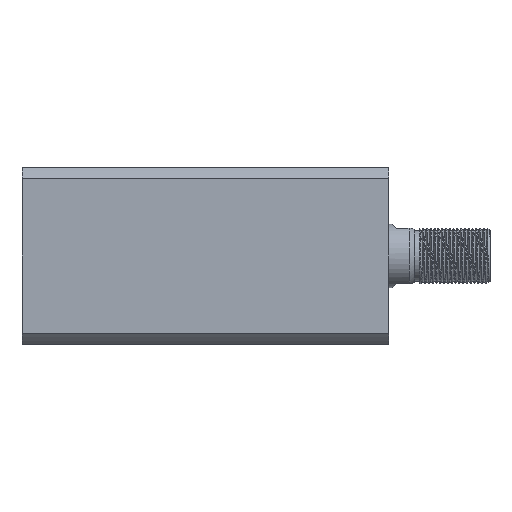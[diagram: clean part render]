
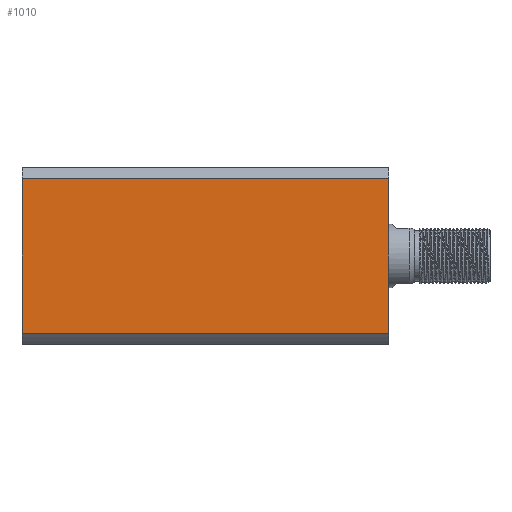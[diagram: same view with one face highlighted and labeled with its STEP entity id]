
A CAD part, left-side view. The second image highlights one B-rep face of the part: STEP entity #1010.
In plain terms, the highlighted planar face has unit normal (-1, 0, 0).
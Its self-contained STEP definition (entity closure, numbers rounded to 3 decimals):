
#319 = CARTESIAN_POINT ( 'NONE',  ( -35., -30.615, 300. ) ) ;
#566 = ORIENTED_EDGE ( 'NONE', *, *, #8358, .F. ) ;
#658 = VECTOR ( 'NONE', #2117, 1000. ) ;
#1010 = ADVANCED_FACE ( 'NONE', ( #8314 ), #3486, .F. ) ;
#2117 = DIRECTION ( 'NONE',  ( 0., -1., 0. ) ) ;
#2151 = CARTESIAN_POINT ( 'NONE',  ( -35., 35., 145. ) ) ;
#2735 = ORIENTED_EDGE ( 'NONE', *, *, #13104, .T. ) ;
#3486 = PLANE ( 'NONE',  #8802 ) ;
#3770 = VERTEX_POINT ( 'NONE', #4317 ) ;
#3816 = DIRECTION ( 'NONE',  ( 1., 0., 0. ) ) ;
#3915 = LINE ( 'NONE', #10594, #12043 ) ;
#4086 = VERTEX_POINT ( 'NONE', #12544 ) ;
#4282 = DIRECTION ( 'NONE',  ( 0., 0., 1. ) ) ;
#4317 = CARTESIAN_POINT ( 'NONE',  ( -35., -30.615, 145. ) ) ;
#4554 = DIRECTION ( 'NONE',  ( 0., -1., 0. ) ) ;
#4562 = EDGE_CURVE ( 'NONE', #11178, #3770, #5770, .T. ) ;
#5297 = CARTESIAN_POINT ( 'NONE',  ( -35., 35., 0. ) ) ;
#5770 = LINE ( 'NONE', #10926, #10770 ) ;
#6143 = ORIENTED_EDGE ( 'NONE', *, *, #9546, .F. ) ;
#6574 = VERTEX_POINT ( 'NONE', #10406 ) ;
#7738 = DIRECTION ( 'NONE',  ( 0., 0., -1. ) ) ;
#8314 = FACE_OUTER_BOUND ( 'NONE', #8398, .T. ) ;
#8358 = EDGE_CURVE ( 'NONE', #3770, #6574, #12388, .T. ) ;
#8398 = EDGE_LOOP ( 'NONE', ( #566, #12305, #6143, #2735 ) ) ;
#8802 = AXIS2_PLACEMENT_3D ( 'NONE', #2151, #3816, #11738 ) ;
#9546 = EDGE_CURVE ( 'NONE', #4086, #11178, #3915, .T. ) ;
#9576 = VECTOR ( 'NONE', #7738, 1000. ) ;
#9622 = CARTESIAN_POINT ( 'NONE',  ( -35., 30.615, 145. ) ) ;
#10406 = CARTESIAN_POINT ( 'NONE',  ( -35., -30.615, 0. ) ) ;
#10594 = CARTESIAN_POINT ( 'NONE',  ( -35., 30.615, 300. ) ) ;
#10770 = VECTOR ( 'NONE', #4554, 1000. ) ;
#10926 = CARTESIAN_POINT ( 'NONE',  ( -35., 35., 145. ) ) ;
#11178 = VERTEX_POINT ( 'NONE', #9622 ) ;
#11738 = DIRECTION ( 'NONE',  ( 0., 1., 0. ) ) ;
#11927 = LINE ( 'NONE', #5297, #658 ) ;
#12043 = VECTOR ( 'NONE', #4282, 1000. ) ;
#12305 = ORIENTED_EDGE ( 'NONE', *, *, #4562, .F. ) ;
#12388 = LINE ( 'NONE', #319, #9576 ) ;
#12544 = CARTESIAN_POINT ( 'NONE',  ( -35., 30.615, 0. ) ) ;
#13104 = EDGE_CURVE ( 'NONE', #4086, #6574, #11927, .T. ) ;
